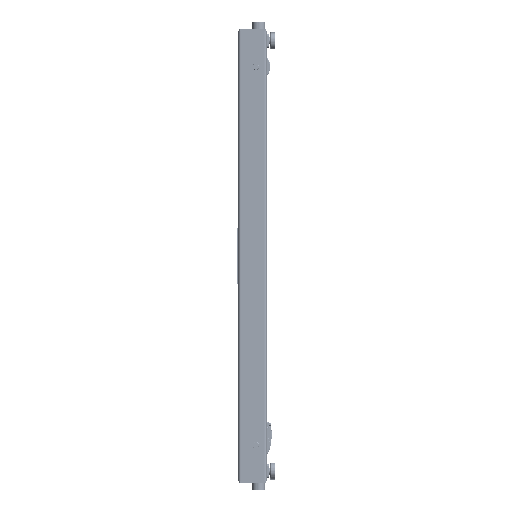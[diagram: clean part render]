
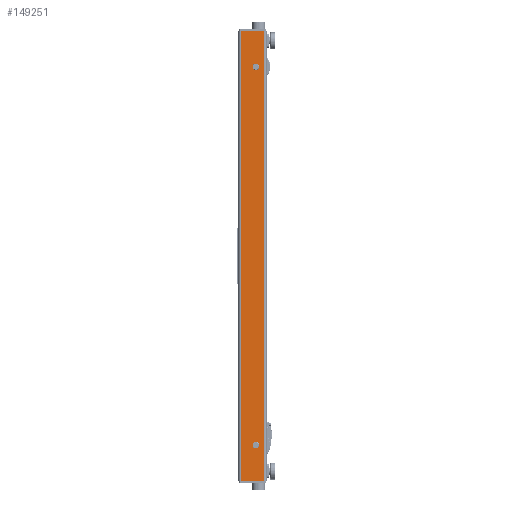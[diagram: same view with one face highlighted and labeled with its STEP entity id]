
A CAD part, left-side view. The second image highlights one B-rep face of the part: STEP entity #149251.
In plain terms, the highlighted planar face has unit normal (-1, 0, 0).
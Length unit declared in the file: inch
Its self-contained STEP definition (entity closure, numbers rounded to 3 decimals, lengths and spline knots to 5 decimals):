
#2489 = FACE_OUTER_BOUND ( 'NONE', #146927, .T. ) ;
#9197 = VERTEX_POINT ( 'NONE', #54237 ) ;
#11936 = EDGE_CURVE ( 'NONE', #35598, #26552, #94797, .T. ) ;
#12373 = DIRECTION ( 'NONE',  ( 1., 0., 0. ) ) ;
#14380 = CARTESIAN_POINT ( 'NONE',  ( 0., 2.326, 7.563 ) ) ;
#14947 = DIRECTION ( 'NONE',  ( 0., -1., 0. ) ) ;
#16760 = VECTOR ( 'NONE', #143990, 39.37008 ) ;
#22810 = VERTEX_POINT ( 'NONE', #182545 ) ;
#26552 = VERTEX_POINT ( 'NONE', #44195 ) ;
#26908 = CARTESIAN_POINT ( 'NONE',  ( 0., 5.5, 95.125 ) ) ;
#32870 = ORIENTED_EDGE ( 'NONE', *, *, #35753, .T. ) ;
#34782 = FACE_BOUND ( 'NONE', #89716, .T. ) ;
#35598 = VERTEX_POINT ( 'NONE', #26908 ) ;
#35753 = EDGE_CURVE ( 'NONE', #44519, #9197, #38290, .T. ) ;
#38290 = CIRCLE ( 'NONE', #157863, 0.69 ) ;
#44195 = CARTESIAN_POINT ( 'NONE',  ( 0., 0.5, 95.125 ) ) ;
#44519 = VERTEX_POINT ( 'NONE', #99384 ) ;
#44598 = EDGE_LOOP ( 'NONE', ( #156058, #129294 ) ) ;
#47724 = CARTESIAN_POINT ( 'NONE',  ( 0., 0.5, 95.125 ) ) ;
#50918 = AXIS2_PLACEMENT_3D ( 'NONE', #149922, #12373, #105390 ) ;
#53747 = CIRCLE ( 'NONE', #124830, 0.69 ) ;
#54044 = ORIENTED_EDGE ( 'NONE', *, *, #86591, .T. ) ;
#54237 = CARTESIAN_POINT ( 'NONE',  ( 0., 2.326, 6.873 ) ) ;
#56234 = DIRECTION ( 'NONE',  ( 1., 0., 0. ) ) ;
#57224 = CARTESIAN_POINT ( 'NONE',  ( 0., 2.326, 7.563 ) ) ;
#63830 = DIRECTION ( 'NONE',  ( 1., 0., 0. ) ) ;
#64044 = AXIS2_PLACEMENT_3D ( 'NONE', #149144, #71269, #132971 ) ;
#66150 = CARTESIAN_POINT ( 'NONE',  ( 0., 0.5, 95.125 ) ) ;
#71269 = DIRECTION ( 'NONE',  ( 1., 0., 0. ) ) ;
#71624 = ORIENTED_EDGE ( 'NONE', *, *, #11936, .F. ) ;
#75153 = DIRECTION ( 'NONE',  ( 0., 0., -1. ) ) ;
#86591 = EDGE_CURVE ( 'NONE', #187874, #141883, #141999, .T. ) ;
#89716 = EDGE_LOOP ( 'NONE', ( #120366, #32870 ) ) ;
#94797 = LINE ( 'NONE', #153475, #163771 ) ;
#95888 = DIRECTION ( 'NONE',  ( 0., 0., -1. ) ) ;
#96164 = CIRCLE ( 'NONE', #50918, 0.69 ) ;
#96521 = DIRECTION ( 'NONE',  ( 1., 0., 0. ) ) ;
#99384 = CARTESIAN_POINT ( 'NONE',  ( 0., 2.326, 8.253 ) ) ;
#102345 = CARTESIAN_POINT ( 'NONE',  ( 0., 5.5, 0. ) ) ;
#105390 = DIRECTION ( 'NONE',  ( 0., 1., 0. ) ) ;
#113769 = VECTOR ( 'NONE', #75153, 39.37008 ) ;
#117934 = DIRECTION ( 'NONE',  ( 0., 0., -1. ) ) ;
#120366 = ORIENTED_EDGE ( 'NONE', *, *, #184201, .T. ) ;
#122916 = AXIS2_PLACEMENT_3D ( 'NONE', #66150, #96521, #170400 ) ;
#124830 = AXIS2_PLACEMENT_3D ( 'NONE', #14380, #63830, #138749 ) ;
#124839 = VECTOR ( 'NONE', #95888, 39.37008 ) ;
#126111 = EDGE_CURVE ( 'NONE', #153476, #22810, #173478, .T. ) ;
#129294 = ORIENTED_EDGE ( 'NONE', *, *, #126111, .T. ) ;
#132971 = DIRECTION ( 'NONE',  ( 0., 1., 0. ) ) ;
#138749 = DIRECTION ( 'NONE',  ( 0., 0., -1. ) ) ;
#141044 = FACE_BOUND ( 'NONE', #44598, .T. ) ;
#141143 = CARTESIAN_POINT ( 'NONE',  ( 0., 1.636, 87.563 ) ) ;
#141883 = VERTEX_POINT ( 'NONE', #195716 ) ;
#141999 = LINE ( 'NONE', #159153, #16760 ) ;
#142043 = PLANE ( 'NONE',  #122916 ) ;
#143990 = DIRECTION ( 'NONE',  ( 0., -1., 0. ) ) ;
#146927 = EDGE_LOOP ( 'NONE', ( #54044, #164029, #71624, #160400 ) ) ;
#149144 = CARTESIAN_POINT ( 'NONE',  ( 0., 2.326, 87.563 ) ) ;
#149251 = ADVANCED_FACE ( 'NONE', ( #34782, #141044, #2489 ), #142043, .F. ) ;
#149922 = CARTESIAN_POINT ( 'NONE',  ( 0., 2.326, 87.563 ) ) ;
#153475 = CARTESIAN_POINT ( 'NONE',  ( 0., 0.5, 95.125 ) ) ;
#153476 = VERTEX_POINT ( 'NONE', #141143 ) ;
#156058 = ORIENTED_EDGE ( 'NONE', *, *, #157869, .T. ) ;
#156568 = LINE ( 'NONE', #171760, #124839 ) ;
#157863 = AXIS2_PLACEMENT_3D ( 'NONE', #57224, #56234, #117934 ) ;
#157869 = EDGE_CURVE ( 'NONE', #22810, #153476, #96164, .T. ) ;
#159153 = CARTESIAN_POINT ( 'NONE',  ( 0., 0.5, 0. ) ) ;
#160400 = ORIENTED_EDGE ( 'NONE', *, *, #182461, .T. ) ;
#163771 = VECTOR ( 'NONE', #14947, 39.37008 ) ;
#164029 = ORIENTED_EDGE ( 'NONE', *, *, #173974, .F. ) ;
#170400 = DIRECTION ( 'NONE',  ( 0., 1., 0. ) ) ;
#171760 = CARTESIAN_POINT ( 'NONE',  ( 0., 5.5, 95.125 ) ) ;
#173478 = CIRCLE ( 'NONE', #64044, 0.69 ) ;
#173974 = EDGE_CURVE ( 'NONE', #26552, #141883, #186206, .T. ) ;
#182461 = EDGE_CURVE ( 'NONE', #35598, #187874, #156568, .T. ) ;
#182545 = CARTESIAN_POINT ( 'NONE',  ( 0., 3.016, 87.563 ) ) ;
#184201 = EDGE_CURVE ( 'NONE', #9197, #44519, #53747, .T. ) ;
#186206 = LINE ( 'NONE', #47724, #113769 ) ;
#187874 = VERTEX_POINT ( 'NONE', #102345 ) ;
#195716 = CARTESIAN_POINT ( 'NONE',  ( 0., 0.5, 0. ) ) ;
